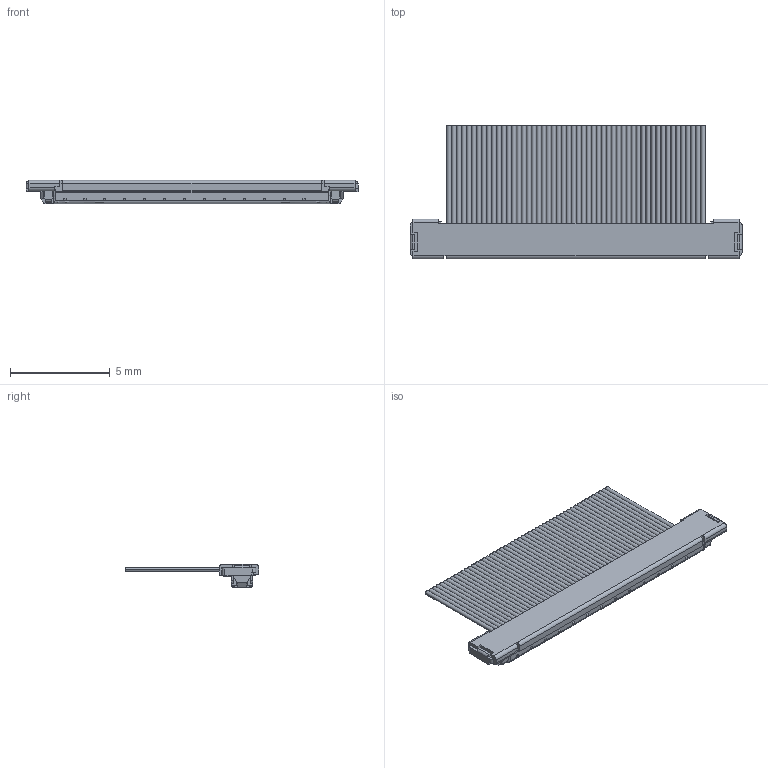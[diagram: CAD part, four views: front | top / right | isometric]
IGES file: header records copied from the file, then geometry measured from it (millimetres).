
Start section: Elysium IGES Interface
Global section: file name: 92HG:\濵岡\①終了\③3D依頼(客先提出用)\①提出可能一覧\IGES(igs)\XSLS□0-52\P3C397_XSLS20-52.igs; native system: Creo Elements/Direct Modeling 20.2  28-Feb-2019; preprocessor: Creo Element/Direct IGES_3D V2.2; author: Unknown; organization: Unknown; date: 20220204.155930; units: millimetre
Bounding box: 16.65 x 6.71 x 1.17 mm (x, y, z)
Volume: 31.7 mm3; surface area: 298.5 mm2
Topology: 1 solids, 1 shells, 413 faces, 955 edges, 628 vertices
Faces by surface type: bspline 413
